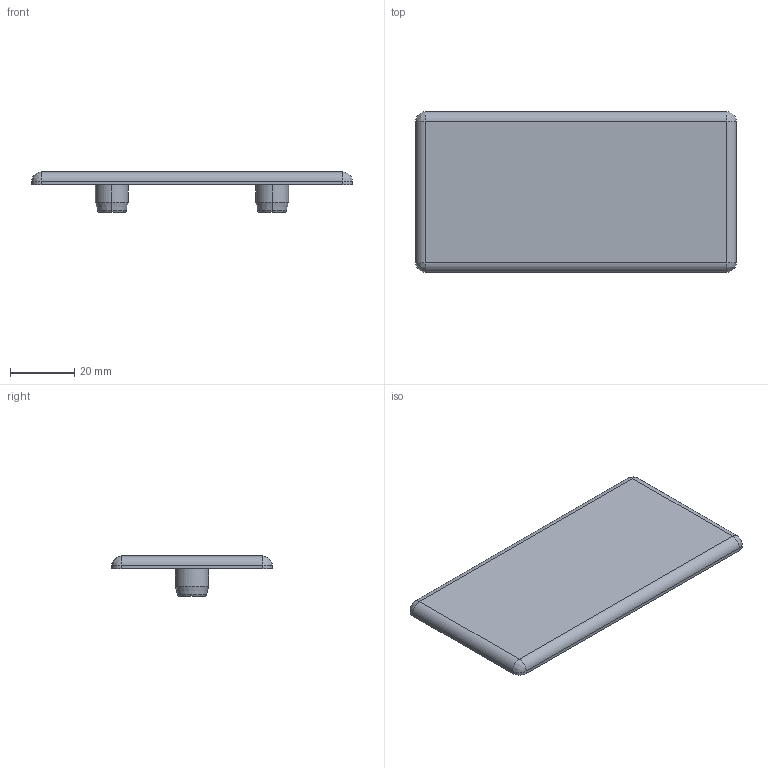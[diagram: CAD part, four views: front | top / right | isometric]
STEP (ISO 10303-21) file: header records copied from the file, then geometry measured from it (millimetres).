
FILE_DESCRIPTION (( 'STEP AP203' ), '1' );
FILE_NAME ('0110AK10050.STEP', '2024-03-06T14:04:57', ( 'Windows-Benutzer' ), ( '' ), 'SwSTEP 2.0', 'SolidWorks 2023', '' );
FILE_SCHEMA (( 'CONFIG_CONTROL_DESIGN' ));
Length unit declared in the file: millimetre
Products named in the file (1): 0110AK10050
Bounding box: 100 x 50 x 12.5 mm (x, y, z)
Volume: 16282.4 mm3; surface area: 11957.7 mm2
Topology: 1 solids, 1 shells, 43 faces, 92 edges, 52 vertices
Faces by surface type: plane 15, cylinder 12, bspline 8, cone 8
Entity records: 1291 total; most frequent: CARTESIAN_POINT 304, DIRECTION 204, ORIENTED_EDGE 176, EDGE_CURVE 88, AXIS2_PLACEMENT_3D 80, VERTEX_POINT 52, EDGE_LOOP 48, VECTOR 44
